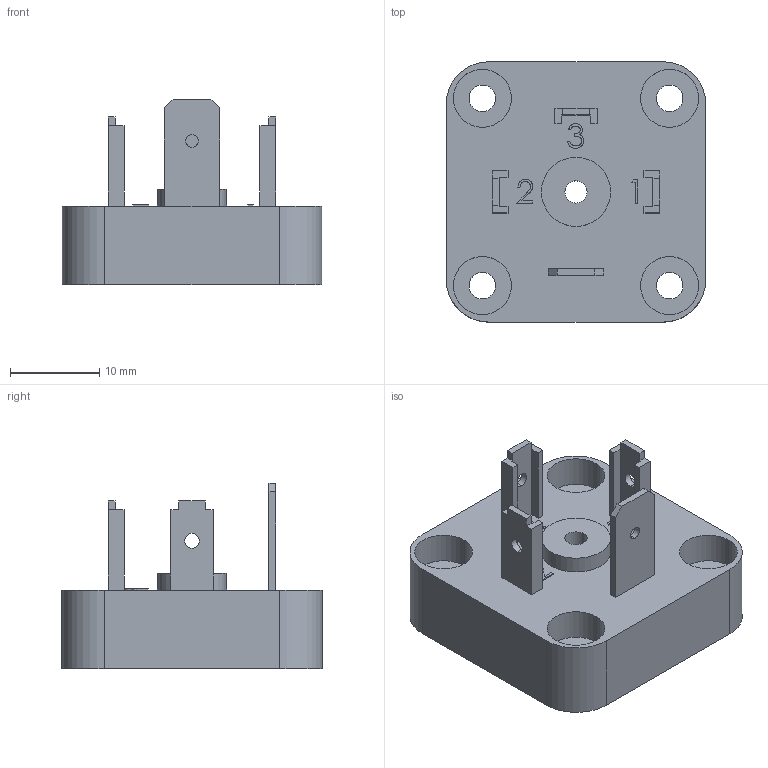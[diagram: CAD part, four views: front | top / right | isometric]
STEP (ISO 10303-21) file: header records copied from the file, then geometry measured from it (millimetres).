
FILE_DESCRIPTION (( 'STEP AP214' ), '1' );
FILE_NAME ('VMA-030-00.STEP', '2006-08-14T13:33:50', ( 'Mencom User' ), ( 'Mencom Corporation' ), 'SwSTEP 2.0', 'SolidWorks 2006104', '' );
FILE_SCHEMA (( 'AUTOMOTIVE_DESIGN' ));
Length unit declared in the file: inch
Products named in the file (1): VMA-030-00
Bounding box: 29.1 x 29.2 x 20.85 mm (x, y, z)
Volume: 4731.6 mm3; surface area: 4436.5 mm2
Topology: 1 solids, 1 shells, 209 faces, 559 edges, 370 vertices
Faces by surface type: plane 143, cylinder 46, bspline 20
Entity records: 9626 total; most frequent: CARTESIAN_POINT 2951, ORIENTED_EDGE 1118, DIRECTION 991, EDGE_CURVE 559, VECTOR 427, LINE 427, VERTEX_POINT 370, AXIS2_PLACEMENT_3D 282
